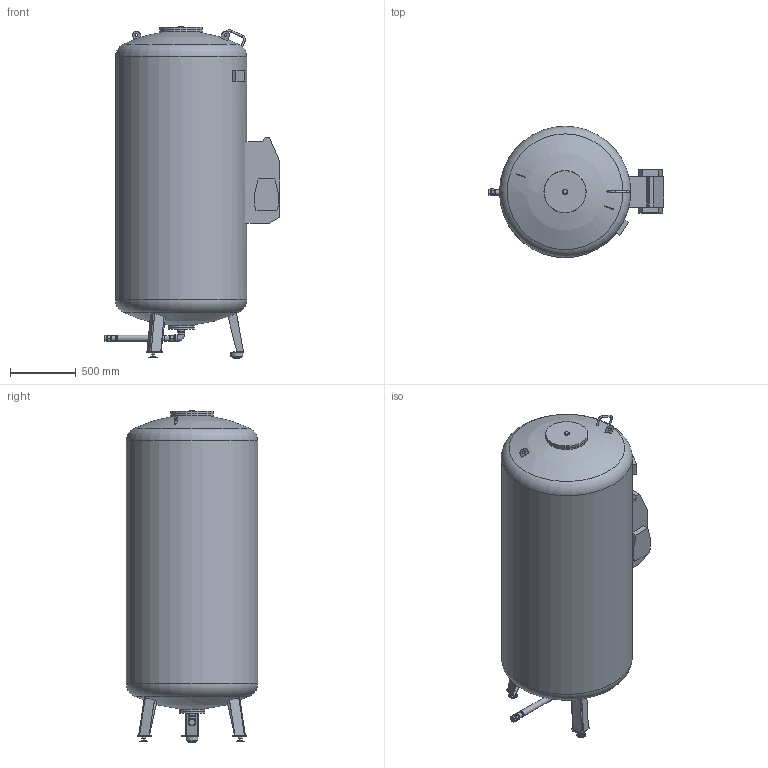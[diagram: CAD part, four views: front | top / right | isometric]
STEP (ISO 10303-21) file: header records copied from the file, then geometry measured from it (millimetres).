
FILE_DESCRIPTION(/* description */ (''),/* implementation_level */ '2;1');
FILE_NAME(/* name */ '\\dataserver\data\Flamco\3D-Modellen\Inventor\Flamcomat\2021_Flamcomat MK-U G4\flamcomat_mk-u_g4_1600_10.stp',/* time_stamp */ '2021-12-15T08:47:13+01:00',/* author */ ('kasius'),/* organization */ (''),/* preprocessor_version */ 'ST-DEVELOPER v17',/* originating_system */ 'Autodesk Inventor 2018',/* authorisation */ '');
FILE_SCHEMA (('AUTOMOTIVE_DESIGN { 1 0 10303 214 3 1 1 }'));
Length unit declared in the file: millimetre
Products named in the file (1): flamcomat_mk-u_g4_1600l
Bounding box: 1338.24 x 1000 x 2531.03 mm (x, y, z)
Volume: 1703756561 mm3; surface area: 8999718.4 mm2
Topology: 5 solids, 5 shells, 323 faces, 848 edges, 570 vertices
Faces by surface type: plane 178, cylinder 72, cone 65, torus 5, sphere 2, bspline 1
Full cylindrical faces by diameter (mm): 15 x3, 16 x2, 20 x2, 24 x2, 33 x2, 38.75 x1, 41.7 x2, 43 x2, 46.1 x1, 47.5 x4, 48 x2, 48.3 x1, 53.6 x2, 55 x2, 65 x2, 90 x1, 162 x1, 198 x2, 279.133 x1, 322 x2, 1000 x1
Entity records: 10437 total; most frequent: CARTESIAN_POINT 1981, DIRECTION 1783, ORIENTED_EDGE 1708, EDGE_CURVE 854, AXIS2_PLACEMENT_3D 673, VERTEX_POINT 570, LINE 437, VECTOR 437
